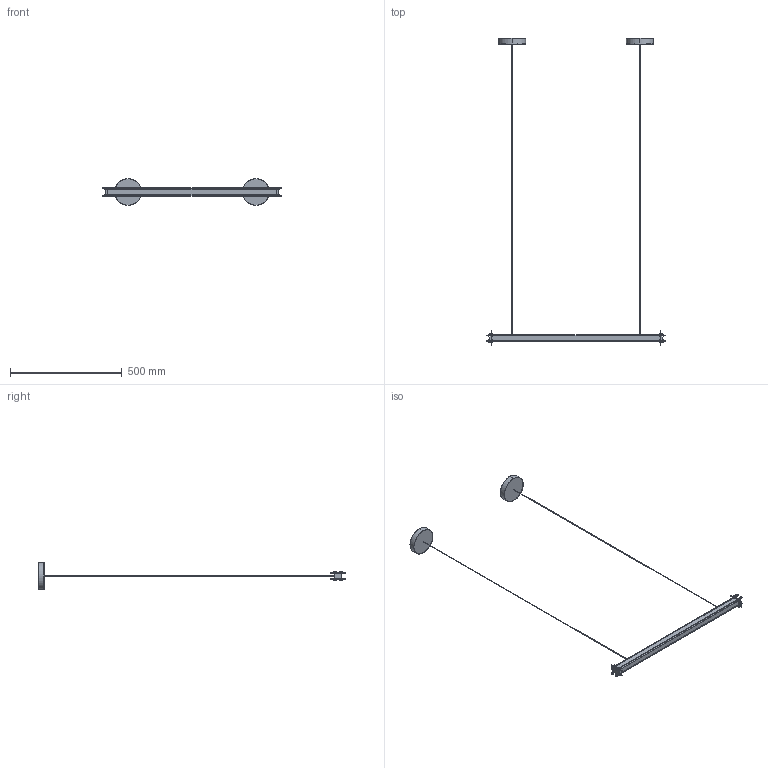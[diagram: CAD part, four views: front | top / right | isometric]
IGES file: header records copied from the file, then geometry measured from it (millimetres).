
Start section: SolidWorks IGES file using analytic representation for surfaces
Global section: file name: F:\燠隴矨\3D\2025-10\Valise Pendant Lamp-L80cm.IGS,15; native system: HSolidWorks 2022; preprocessor: SolidWorks 2022; author: MyPC; date: 251003.085916; units: millimetre
Bounding box: 800 x 1373.54 x 120 mm (x, y, z)
Surface area: 229985.2 mm2 (no closed solid volume)
Topology: 0 solids, 0 shells, 233 faces, 3136 edges, 3136 vertices
Faces by surface type: bspline 165, revolution 68
